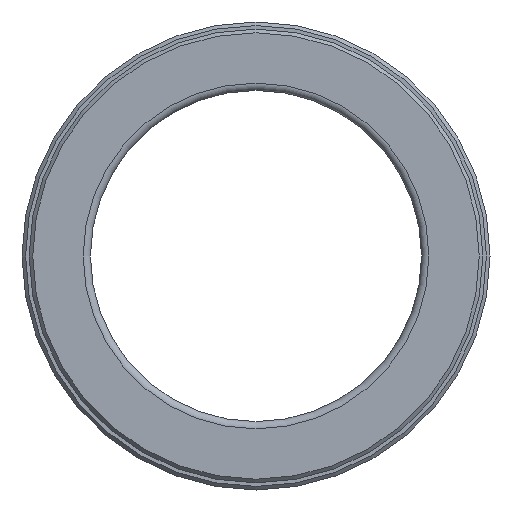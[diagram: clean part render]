
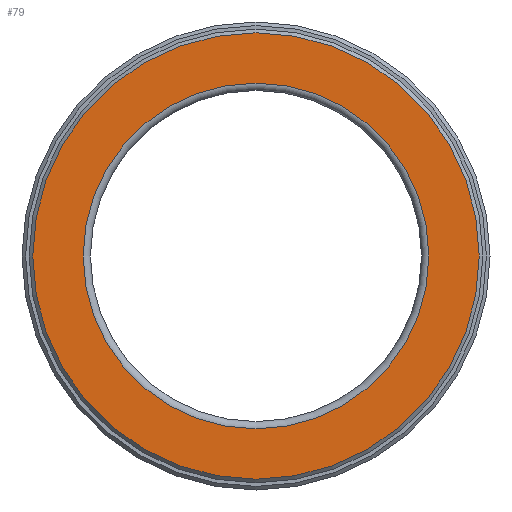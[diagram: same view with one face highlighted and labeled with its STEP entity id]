
A CAD part, front view. The second image highlights one B-rep face of the part: STEP entity #79.
In plain terms, the highlighted planar face has unit normal (0, -1, 0).
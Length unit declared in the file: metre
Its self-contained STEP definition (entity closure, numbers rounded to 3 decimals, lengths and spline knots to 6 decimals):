
#79 = ADVANCED_FACE( '', ( #105, #106 ), #107, .T. );
#105 = FACE_OUTER_BOUND( '', #165, .T. );
#106 = FACE_BOUND( '', #166, .T. );
#107 = PLANE( '', #167 );
#165 = EDGE_LOOP( '', ( #229 ) );
#166 = EDGE_LOOP( '', ( #230 ) );
#167 = AXIS2_PLACEMENT_3D( '', #231, #232, #233 );
#229 = ORIENTED_EDGE( '', *, *, #322, .T. );
#230 = ORIENTED_EDGE( '', *, *, #319, .F. );
#231 = CARTESIAN_POINT( '', ( 0.024, -0.055, 0. ) );
#232 = DIRECTION( '', ( 0., -1., 0. ) );
#233 = DIRECTION( '', ( 0., 0., -1. ) );
#319 = EDGE_CURVE( '', #339, #339, #340, .T. );
#322 = EDGE_CURVE( '', #345, #345, #346, .T. );
#339 = VERTEX_POINT( '', #379 );
#340 = CIRCLE( '', #380, 0.024 );
#345 = VERTEX_POINT( '', #385 );
#346 = CIRCLE( '', #386, 0.031 );
#379 = CARTESIAN_POINT( '', ( 0., -0.055, -0.024 ) );
#380 = AXIS2_PLACEMENT_3D( '', #419, #420, #421 );
#385 = CARTESIAN_POINT( '', ( 0., -0.055, -0.031 ) );
#386 = AXIS2_PLACEMENT_3D( '', #428, #429, #430 );
#419 = CARTESIAN_POINT( '', ( 0., -0.055, 0. ) );
#420 = DIRECTION( '', ( 0., -1., 0. ) );
#421 = DIRECTION( '', ( 0., 0., -1. ) );
#428 = CARTESIAN_POINT( '', ( 0., -0.055, 0. ) );
#429 = DIRECTION( '', ( 0., -1., 0. ) );
#430 = DIRECTION( '', ( 0., 0., -1. ) );
